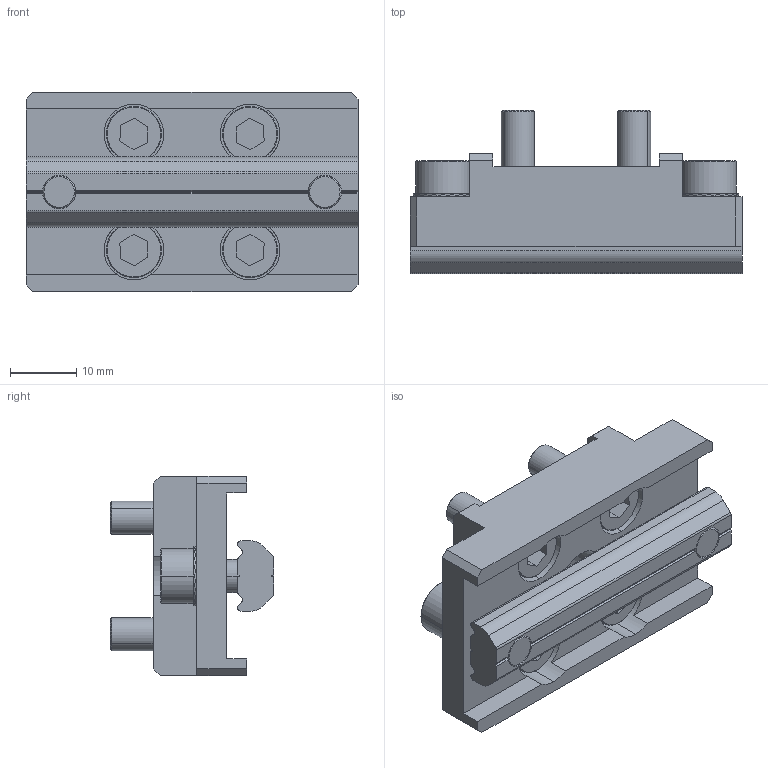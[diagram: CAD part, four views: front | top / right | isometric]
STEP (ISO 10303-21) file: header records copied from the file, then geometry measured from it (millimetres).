
FILE_DESCRIPTION (( 'STEP AP214' ), '1' );
FILE_NAME ('SMBD-2550.STEP', '2019-10-31T06:42:11', ( '微软用户' ), ( '微软中国' ), 'SwSTEP 2.0', 'SolidWorks 2016', '' );
FILE_SCHEMA (( 'AUTOMOTIVE_DESIGN' ));
Length unit declared in the file: millimetre
Products named in the file (5): PTN-M5P40; PTS-M5; PTC-M5L12; SMBD-2550
Assembly tree (10 placements, depth 2):
  SMBD-2550
    SMBD-2550
    PTC-M5L12  x6
    PTS-M5  x2
    PTN-M5P40
Bounding box: 50 x 24.55 x 30 mm (x, y, z)
Volume: 14626.1 mm3; surface area: 10812.7 mm2
Topology: 10 solids, 10 shells, 558 faces, 1566 edges, 1032 vertices
Faces by surface type: plane 444, cylinder 78, cone 36
Entity records: 10232 total; most frequent: CARTESIAN_POINT 1937, ORIENTED_EDGE 1728, DIRECTION 1720, EDGE_CURVE 864, AXIS2_PLACEMENT_3D 581, VERTEX_POINT 574, LINE 558, VECTOR 558
